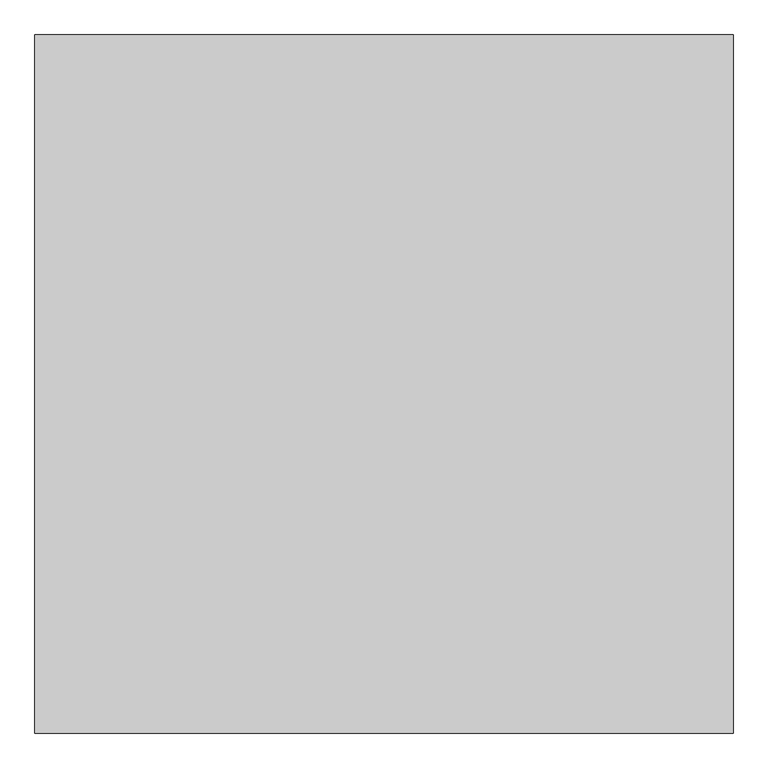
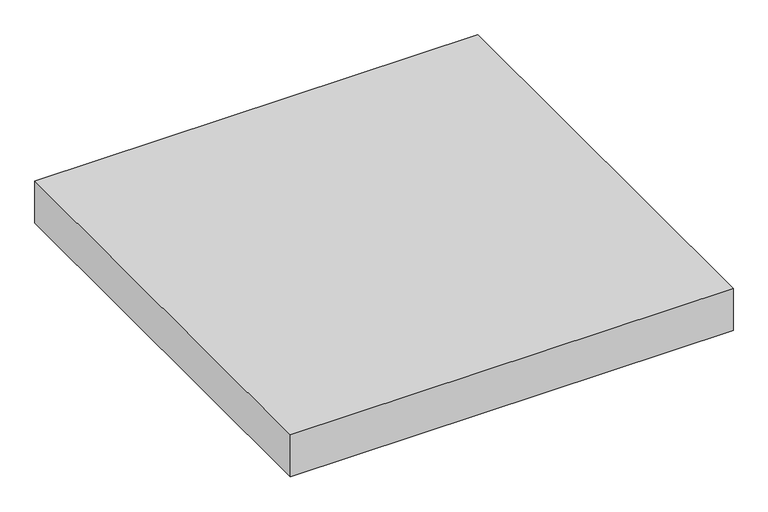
"""IFC4 building model written with IfcOpenShell, lengths in millimetres: proxy geometry, Modelos genéricos 8 : Modelos genéricos 1."""

from ifc_helpers import new_model, si_unit, origin, origin_with_axes, place, context, project, spatial, polyline, outline, extrude, source, transform, mapped, element, save


def generic_models_67897759(model_context):
    return source(origin(), model_context, "Body", "SweptSolid", [
        extrude(outline(polyline([(-14225.6026359, -6045.712814), (-14225.6026359, -7545.712814), (-15725.6026359, -7545.712814), (-15725.6026359, -6045.712814), (-14225.6026359, -6045.712814)])), origin_with_axes(), (0.0, 0.0, 1.0), 150.0),
    ])


if __name__ == "__main__":
    model = new_model("IFC4")
    model_context = context("Model", 3, world=origin())
    ifc_project = project(units=[si_unit("LENGTHUNIT", "METRE", prefix="MILLI")], contexts=[model_context])
    site = spatial("IfcSite", under=ifc_project)
    building = spatial("IfcBuilding", under=site)
    placement = place(None, origin())
    generic_models_shape = generic_models_67897759(model_context)
    element("IfcBuildingElementProxy", 1, Name="Modelos genéricos 8 : Modelos genéricos 1", ObjectType="Modelos genéricos 8 : Modelos genéricos 1", at=placement, inside=building, context=model_context, shape_type="MappedRepresentation", body=[
        mapped(generic_models_shape, transform((0.0, 0.0, 0.0), x_axis=(1.0, 0.0, 0.0), y_axis=(0.0, 1.0, 0.0), z_axis=(0.0, 0.0, 1.0))),
    ])
    save(model, "model.ifc")
